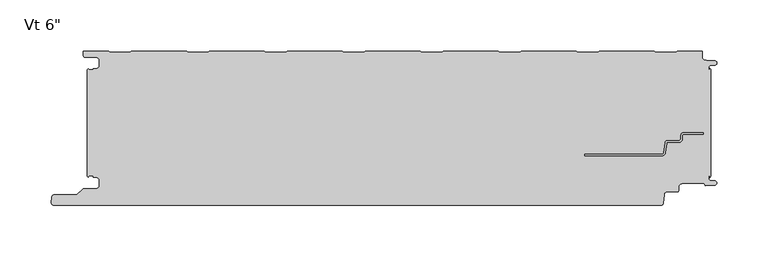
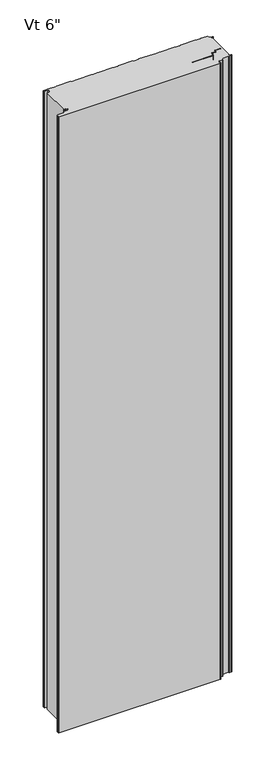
"""IFC4 building model written with IfcOpenShell, lengths in millimetres: plate geometry."""

from ifc_helpers import new_model, si_unit, frame, origin, place, context, project, spatial, polyline, circle_curve, source, transform, mapped, element, save
from ifc_brep_helpers import plane_surface, cylinder_surface, revolved_surface, advanced_brep


def plate_8d461976(model_context):
    return source(origin(), model_context, "Body", "AdvancedBrep", [
        advanced_brep(
        [(278.4543181, -80.5008679, 0.0), (297.1995181, -80.5008679, 0.0), (297.1995181, -82.0248679, 0.0), (278.4543181, -82.0248679, 0.0), (276.9303181, -83.5488679, 0.0), (276.9303181, -86.6476679, 0.0), (273.4759181, -90.1020679, 0.0), (262.2633607, -90.1020679, 0.0), (261.5042604, -90.7976552, 0.0), (260.3094328, -100.3416507, 0.0), (257.2730313, -103.124, 0.0), (181.7057181, -103.1360323, 0.0), (181.7057181, -101.6, 0.0), (257.2730313, -101.6, 0.0), (258.7912321, -100.2088254, 0.0), (259.9860597, -90.6648299, 0.0), (262.2633607, -88.5780679, 0.0), (273.4759181, -88.5780679, 0.0), (275.4063181, -86.6476679, 0.0), (275.4063181, -83.5488679, 0.0), (278.4543181, -80.5008679, 2400.0), (275.4063181, -83.5488679, 2400.0), (275.4063181, -86.6476679, 2400.0), (273.4759181, -88.5780679, 2400.0), (262.2633607, -88.5780679, 2400.0), (259.9860597, -90.6648299, 2400.0), (258.7912321, -100.2088254, 2400.0), (257.2730313, -101.6, 2400.0), (181.7057181, -101.6, 2400.0), (181.7057181, -103.1360323, 2400.0), (257.2730313, -103.1360323, 2400.0), (260.3094328, -100.3416507, 2400.0), (261.5042604, -90.7976552, 2400.0), (262.2633607, -90.1020679, 2400.0), (273.4759181, -90.1020679, 2400.0), (276.9303181, -86.6476679, 2400.0), (276.9303181, -83.5488679, 2400.0), (278.4543181, -82.0248679, 2400.0), (297.1995181, -82.0248679, 2400.0), (297.1995181, -80.5008679, 2400.0)],
        [
            (0, 1),
            (1, 2),
            (2, 3),
            (3, 4, circle_curve(frame((278.4543181, -83.5488679, 0.0), z_axis=(0.0, 0.0, 1.0), x_axis=(0.0, 1.0, 0.0)), 1.524)),
            (4, 5),
            (5, 6, circle_curve(frame((273.4759181, -86.6476679, 0.0), z_axis=(0.0, 0.0, -1.0), x_axis=(0.0, 1.0, 0.0)), 3.4544)),
            (6, 7),
            (7, 8, circle_curve(frame((262.2633607, -90.8640679, 0.0), z_axis=(0.0, 0.0, 1.0), x_axis=(0.0, 1.0, 0.0)), 0.762)),
            (8, 9),
            (9, 10, circle_curve(frame((257.2730313, -100.076, 0.0), z_axis=(0.0, 0.0, -1.0), x_axis=(0.0, 1.0, 0.0)), 3.048)),
            (10, 11),
            (11, 12),
            (12, 13),
            (13, 14, circle_curve(frame((257.2730313, -100.076, 0.0), z_axis=(0.0, 0.0, 1.0), x_axis=(0.0, 1.0, 0.0)), 1.524)),
            (14, 15),
            (15, 16, circle_curve(frame((262.2633607, -90.8640679, 0.0), z_axis=(0.0, 0.0, -1.0), x_axis=(0.0, 1.0, 0.0)), 2.286)),
            (16, 17),
            (17, 18, circle_curve(frame((273.4759181, -86.6476679, 0.0), z_axis=(0.0, 0.0, 1.0), x_axis=(0.0, 1.0, 0.0)), 1.9304)),
            (18, 19),
            (19, 0, circle_curve(frame((278.4543181, -83.5488679, 0.0), z_axis=(0.0, 0.0, -1.0), x_axis=(0.0, 1.0, 0.0)), 3.048)),
            (20, 21, circle_curve(frame((278.4543181, -83.5488679, 2400.0), z_axis=(0.0, 0.0, 1.0), x_axis=(0.0, 1.0, 0.0)), 3.048)),
            (21, 22),
            (22, 23, circle_curve(frame((273.4759181, -86.6476679, 2400.0), z_axis=(0.0, 0.0, -1.0), x_axis=(0.0, 1.0, 0.0)), 1.9304)),
            (23, 24),
            (24, 25, circle_curve(frame((262.2633607, -90.8640679, 2400.0), z_axis=(0.0, 0.0, 1.0), x_axis=(0.0, 1.0, 0.0)), 2.286)),
            (25, 26),
            (26, 27, circle_curve(frame((257.2730313, -100.076, 2400.0), z_axis=(0.0, 0.0, -1.0), x_axis=(0.0, 1.0, 0.0)), 1.524)),
            (27, 28),
            (28, 29),
            (29, 30),
            (30, 31, circle_curve(frame((257.2730313, -100.076, 2400.0), z_axis=(0.0, 0.0, 1.0), x_axis=(0.0, 1.0, 0.0)), 3.048)),
            (31, 32),
            (32, 33, circle_curve(frame((262.2633607, -90.8640679, 2400.0), z_axis=(0.0, 0.0, -1.0), x_axis=(0.0, 1.0, 0.0)), 0.762)),
            (33, 34),
            (34, 35, circle_curve(frame((273.4759181, -86.6476679, 2400.0), z_axis=(0.0, 0.0, 1.0), x_axis=(0.0, 1.0, 0.0)), 3.4544)),
            (35, 36),
            (36, 37, circle_curve(frame((278.4543181, -83.5488679, 2400.0), z_axis=(0.0, 0.0, -1.0), x_axis=(0.0, 1.0, 0.0)), 1.524)),
            (37, 38),
            (38, 39),
            (39, 20),
            (2, 38),
            (37, 3),
            (15, 25),
            (24, 16),
            (7, 33),
            (32, 8),
            (5, 35),
            (34, 6),
            (1, 39),
            (36, 4),
            (9, 31),
            (30, 10),
            (13, 27),
            (26, 14),
            (0, 20),
            (12, 28),
            (29, 11),
            (23, 17),
            (18, 22),
            (21, 19),
        ],
        [
            plane_surface(frame((297.1995181, -101.6, 0.0), z_axis=(0.0, 0.0, -1.0), x_axis=(-1.0, 0.0, 0.0))),
            plane_surface(frame((297.1995181, -101.6, 2400.0), z_axis=(0.0, 0.0, 1.0), x_axis=(-1.0, 0.0, 0.0))),
            plane_surface(frame((278.4543181, -82.0248679, 0.0), z_axis=(0.0, -1.0, 0.0), x_axis=(0.0, 0.0, 1.0))),
            cylinder_surface(frame((262.2633607, -90.8640679, 0.0), z_axis=(0.0, 0.0, -1.0), x_axis=(0.0, 1.0, 0.0)), 2.286),
            revolved_surface(polyline([(262.2633607, -90.1020679, 2400.0), (262.2633607, -90.1020679, 0.0)]), (262.2633607, -90.8640679, 0.0), (0.0, 0.0, 1.0)),
            cylinder_surface(frame((273.4759181, -86.6476679, 0.0), z_axis=(0.0, 0.0, -1.0), x_axis=(0.0, 1.0, 0.0)), 3.4544),
            plane_surface(frame((297.1995181, -82.0248679, 0.0), z_axis=(1.0, 0.0, 0.0), x_axis=(0.0, 0.0, 1.0))),
            revolved_surface(polyline([(278.4543181, -82.0248679, 2400.0), (278.4543181, -82.0248679, 0.0)]), (278.4543181, -83.5488679, 0.0), (0.0, 0.0, 1.0)),
            cylinder_surface(frame((257.2730313, -100.076, 0.0), z_axis=(0.0, 0.0, -1.0), x_axis=(0.0, 1.0, 0.0)), 3.048),
            revolved_surface(polyline([(257.2730313, -98.55199999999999, 2400.0), (257.2730313, -98.55199999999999, 0.0)]), (257.2730313, -100.076, 0.0), (0.0, 0.0, 1.0)),
            plane_surface(frame((297.1995181, -80.5008679, 0.0), z_axis=(0.0, 1.0, 0.0), x_axis=(0.0, 0.0, 1.0))),
            plane_surface(frame((259.9860597, -90.6648299, 0.0), z_axis=(-0.992254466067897, 0.12422187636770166, 0.0), x_axis=(0.0, 0.0, 1.0))),
            plane_surface(frame((257.2730313, -101.6, 0.0), z_axis=(0.0, 1.0, 0.0), x_axis=(0.0, 0.0, 1.0))),
            plane_surface(frame((260.3094328, -100.3416507, 0.0), z_axis=(0.9922544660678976, -0.12422187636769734, 0.0), x_axis=(0.0, 0.0, 1.0))),
            plane_surface(frame((276.9303181, -86.6476679, 0.0), z_axis=(1.0, 0.0, 0.0), x_axis=(0.0, 0.0, 1.0))),
            plane_surface(frame((181.7057181, -103.1360323, 0.0), z_axis=(0.0, -1.0, 0.0), x_axis=(0.0, 0.0, 1.0))),
            plane_surface(frame((181.7057181, -101.6, 0.0), z_axis=(-1.0, 0.0, 0.0), x_axis=(0.0, 0.0, 1.0))),
            plane_surface(frame((273.4759181, -88.5780679, 0.0), z_axis=(0.0, 1.0, 0.0), x_axis=(0.0, 0.0, 1.0))),
            plane_surface(frame((275.4063181, -83.5488679, 0.0), z_axis=(-1.0, 0.0, 0.0), x_axis=(0.0, 0.0, 1.0))),
            plane_surface(frame((262.2633607, -90.1020679, 0.0), z_axis=(0.0, -1.0, 0.0), x_axis=(0.0, 0.0, 1.0))),
            revolved_surface(polyline([(273.4759181, -84.7172679, 2400.0), (273.4759181, -84.7172679, 0.0)]), (273.4759181, -86.6476679, 0.0), (0.0, 0.0, 1.0)),
            cylinder_surface(frame((278.4543181, -83.5488679, 0.0), z_axis=(0.0, 0.0, -1.0), x_axis=(0.0, 1.0, 0.0)), 3.048),
        ],
        [
            (0, [[1, 2, 3, 4, 5, 6, 7, 8, 9, 10, 11, 12, 13, 14, 15, 16, 17, 18, 19, 20]]),
            (1, [[21, 22, 23, 24, 25, 26, 27, 28, 29, 30, 31, 32, 33, 34, 35, 36, 37, 38, 39, 40]]),
            (2, [[41, -38, 42, -3]]),
            (3, [[43, -25, 44, -16]]),
            (4, [[45, -33, 46, -8]]),
            (5, [[47, -35, 48, -6]]),
            (6, [[49, -39, -41, -2]]),
            (7, [[-42, -37, 50, -4]]),
            (8, [[51, -31, 52, -10]]),
            (9, [[53, -27, 54, -14]]),
            (10, [[55, -40, -49, -1]]),
            (11, [[-54, -26, -43, -15]]),
            (12, [[56, -28, -53, -13]]),
            (13, [[-46, -32, -51, -9]]),
            (14, [[-50, -36, -47, -5]]),
            (15, [[-52, -30, 57, -11]]),
            (16, [[-57, -29, -56, -12]]),
            (17, [[-44, -24, 58, -17]]),
            (18, [[59, -22, 60, -19]]),
            (19, [[-48, -34, -45, -7]]),
            (20, [[-58, -23, -59, -18]]),
            (21, [[-60, -21, -55, -20]]),
        ],
    ),
        advanced_brep(
        [(-303.7683001, -124.070875, 2400.0), (-302.5671761, -122.9014003, 2400.0), (-298.8087827, -122.9014003, 2400.0), (-298.8087827, -124.2998791, 2400.0), (-296.1096717, -124.2998791, 2400.0), (-292.7596764, -127.6498744, 2400.0), (-292.7596764, -132.0498656, 2400.0), (-296.1096717, -135.3998609, 2400.0), (-307.9205608, -135.3998609, 2400.0), (-309.1226385, -135.8977778, 2400.0), (-314.6247096, -141.3998489, 2400.0), (-336.7198392, -141.3998489, 2400.0), (-339.3765709, -143.6184509, 2400.0), (-339.8125699, -148.6002718, 2400.0), (-337.2521176, -151.3945967, 2400.0), (256.315622, -151.4, 2400.0), (258.2669057, -149.6149259, 2400.0), (259.021161, -141.1539491, 2400.0), (262.1653654, -138.3906462, 2400.0), (272.2583308, -138.3906462, 2400.0), (273.2097394, -137.4392375, 2400.0), (273.2097394, -134.2955822, 2400.0), (277.2091924, -130.2961292, 2400.0), (298.3895515, -130.2961292, 2400.0), (299.5334028, -132.276977, 2400.0), (308.506811, -131.9217167, 2400.0), (308.5037148, -127.7211391, 2400.0), (304.4977997, -127.4767242, 2400.0), (302.7686884, -125.6819116, 2400.0), (302.7686884, -122.897365, 2400.0), (303.7686884, -122.897365, 2400.0), (303.7686884, -124.484865, 2400.0), (304.8, -123.4535534, 2400.0), (304.8, -18.6184525, 2400.0), (303.7686884, -17.5871409, 2400.0), (303.7686884, -19.0015288, 2400.0), (302.7686884, -19.0015288, 2400.0), (302.7686884, -16.6743462, 2400.0), (304.4513685, -14.9256429, 2400.0), (308.5921924, -14.7059822, 2400.0), (308.5931719, -10.4046442, 2400.0), (300.1016499, -9.9974365, 2400.0), (296.2787013, -6.0026007, 2400.0), (296.2787013, -1.0, 2400.0), (271.7794011, -1.0, 2400.0), (270.3937682, -2.2002307, 2400.0), (251.0186019, -2.2002307, 2400.0), (249.6329689, -1.0, 2400.0), (195.5795535, -1.0, 2400.0), (194.1939206, -2.2002307, 2400.0), (174.8187543, -2.2002307, 2400.0), (173.4331213, -1.0, 2400.0), (119.3797059, -1.0, 2400.0), (117.994073, -2.2002307, 2400.0), (98.6189067, -2.2002307, 2400.0), (97.2332737, -1.0, 2400.0), (43.1798583, -1.0, 2400.0), (41.7942254, -2.2002307, 2400.0), (22.4190591, -2.2002307, 2400.0), (21.0334261, -1.0, 2400.0), (-33.0199893, -1.0, 2400.0), (-34.4056222, -2.2002307, 2400.0), (-53.7807885, -2.2002307, 2400.0), (-55.1664215, -1.0, 2400.0), (-109.2198369, -1.0, 2400.0), (-110.6054698, -2.2002307, 2400.0), (-129.9806361, -2.2002307, 2400.0), (-131.3662691, -1.0, 2400.0), (-185.4196845, -1.0, 2400.0), (-186.8053174, -2.2002307, 2400.0), (-206.1804837, -2.2002307, 2400.0), (-207.5661167, -1.0, 2400.0), (-261.6195321, -1.0, 2400.0), (-263.005165, -2.2002307, 2400.0), (-282.3803313, -2.2002307, 2400.0), (-283.765974, -0.9999916, 2400.0), (-308.2662506, -0.9999916, 2400.0), (-308.2662506, -5.2315389, 2400.0), (-306.4962564, -7.0015331, 2400.0), (-296.0762778, -7.0015331, 2400.0), (-292.776282, -10.301529, 2400.0), (-292.776282, -14.7015202, 2400.0), (-296.0762777, -18.0015159, 2400.0), (-298.7684875, -18.0015159, 2400.0), (-298.7684875, -19.0015105, 2400.0), (-302.7686911, -19.0015105, 2400.0), (-303.7686883, -18.0015192, 2400.0), (-304.8, -19.0328308, 2400.0), (-304.8, -123.0391751, 2400.0), (-303.7683001, -124.070875, 0.0), (-304.8, -123.0391751, 0.0), (-304.8, -19.0328308, 0.0), (-303.7686883, -18.0015192, 0.0), (-302.7686911, -19.0015105, 0.0), (-298.7684875, -19.0015105, 0.0), (-298.7684875, -18.0015159, 0.0), (-296.0762777, -18.0015159, 0.0), (-292.776282, -14.7015202, 0.0), (-292.776282, -10.301529, 0.0), (-296.0762778, -7.0015331, 0.0), (-306.4962564, -7.0015331, 0.0), (-308.2662506, -5.2315389, 0.0), (-308.2662506, -0.9999916, 0.0), (-283.765974, -0.9999916, 0.0), (-282.3803313, -2.2002307, 0.0), (-263.005165, -2.2002307, 0.0), (-261.6195321, -1.0, 0.0), (-207.5661167, -1.0, 0.0), (-206.1804837, -2.2002307, 0.0), (-186.8053174, -2.2002307, 0.0), (-185.4196845, -1.0, 0.0), (-131.3662691, -1.0, 0.0), (-129.9806361, -2.2002307, 0.0), (-110.6054698, -2.2002307, 0.0), (-109.2198369, -1.0, 0.0), (-55.1664215, -1.0, 0.0), (-53.7807885, -2.2002307, 0.0), (-34.4056222, -2.2002307, 0.0), (-33.0199893, -1.0, 0.0), (21.0334261, -1.0, 0.0), (22.4190591, -2.2002307, 0.0), (41.7942254, -2.2002307, 0.0), (43.1798583, -1.0, 0.0), (97.2332737, -1.0, 0.0), (98.6189067, -2.2002307, 0.0), (117.994073, -2.2002307, 0.0), (119.3797059, -1.0, 0.0), (173.4331213, -1.0, 0.0), (174.8187543, -2.2002307, 0.0), (194.1939206, -2.2002307, 0.0), (195.5795535, -1.0, 0.0), (249.6329689, -1.0, 0.0), (251.0186019, -2.2002307, 0.0), (270.3937682, -2.2002307, 0.0), (271.7794011, -1.0, 0.0), (296.2787013, -1.0, 0.0), (296.2787013, -6.0026007, 0.0), (300.1016499, -9.9974365, 0.0), (308.5931719, -10.4046442, 0.0), (308.5921924, -14.7059822, 0.0), (304.4513685, -14.9256429, 0.0), (302.7686884, -16.6743462, 0.0), (302.7686884, -19.0015288, 0.0), (303.7686884, -19.0015288, 0.0), (303.7686884, -17.5871409, 0.0), (304.8, -18.6184525, 0.0), (304.8, -123.4535534, 0.0), (303.7686884, -124.484865, 0.0), (303.7686884, -122.897365, 0.0), (302.7686884, -122.897365, 0.0), (302.7686884, -125.6819116, 0.0), (304.4977997, -127.4767242, 0.0), (308.5037148, -127.7211391, 0.0), (308.506811, -131.9217167, 0.0), (299.5334028, -132.276977, 0.0), (298.3895515, -130.2961292, 0.0), (277.2091924, -130.2961292, 0.0), (273.2097394, -134.2955822, 0.0), (273.2097394, -137.4392375, 0.0), (272.2583308, -138.3906462, 0.0), (262.1653654, -138.3906462, 0.0), (259.021161, -141.1539491, 0.0), (258.2669057, -149.6149259, 0.0), (256.315622, -151.4, 0.0), (-337.2521176, -151.4, 0.0), (-339.8125699, -148.6002718, 0.0), (-339.3765709, -143.6184509, 0.0), (-336.7198392, -141.3998489, 0.0), (-314.6247096, -141.3998489, 0.0), (-309.1226385, -135.8977778, 0.0), (-307.9205608, -135.3998609, 0.0), (-296.1096717, -135.3998609, 0.0), (-292.7596764, -132.0498656, 0.0), (-292.7596764, -127.6498744, 0.0), (-296.1096717, -124.2998791, 0.0), (-298.8087827, -124.2998791, 0.0), (-298.8087827, -122.9014003, 0.0), (-302.5671761, -122.9014003, 0.0)],
        [
            (0, 1, circle_curve(frame((-302.5686908, -124.1013969, 2400.0), z_axis=(0.0, 0.0, -1.0), x_axis=(-1.0, 0.0, 0.0)), 1.1999976)),
            (1, 2),
            (2, 3),
            (3, 4),
            (4, 5, circle_curve(frame((-296.1096717, -127.6498744, 2400.0), z_axis=(0.0, 0.0, -1.0), x_axis=(-1.0, 0.0, 0.0)), 3.3499953)),
            (5, 6),
            (6, 7, circle_curve(frame((-296.1096717, -132.0498656, 2400.0), z_axis=(0.0, 0.0, -1.0), x_axis=(-1.0, 0.0, 0.0)), 3.3499953)),
            (7, 8),
            (8, 9, circle_curve(frame((-307.9205608, -137.0998555, 2400.0), z_axis=(0.0, 0.0, 1.0), x_axis=(-1.0, 0.0, 0.0)), 1.6999946)),
            (9, 10),
            (10, 11),
            (11, 12, circle_curve(frame((-336.7198392, -144.0998415, 2400.0), z_axis=(0.0, 0.0, 1.0), x_axis=(-1.0, 0.0, 0.0)), 2.6999926)),
            (12, 13),
            (13, 14, circle_curve(frame((-337.2521176, -148.8243575, 2400.0), z_axis=(0.0, 0.0, 1.0), x_axis=(-1.0, 0.0, 0.0)), 2.5702393)),
            (14, 15),
            (15, 16, circle_curve(frame((256.315622, -149.4409784, 2400.0), z_axis=(0.0, 0.0, 1.0), x_axis=(-1.0, 0.0, 0.0)), 1.9590216)),
            (16, 17),
            (17, 18, circle_curve(frame((262.0396267, -141.4180321, 2400.0), z_axis=(0.0, 0.0, -1.0), x_axis=(-1.0, 0.0, 0.0)), 3.0299959)),
            (18, 19),
            (19, 20, circle_curve(frame((272.2583308, -137.4392375, 2400.0), z_axis=(0.0, 0.0, 1.0), x_axis=(-1.0, 0.0, 0.0)), 0.9514087)),
            (20, 21),
            (21, 22, circle_curve(frame((277.2091924, -134.2955822, 2400.0), z_axis=(0.0, 0.0, -1.0), x_axis=(-1.0, 0.0, 0.0)), 3.9994529)),
            (22, 23),
            (23, 24),
            (24, 25),
            (25, 26, circle_curve(frame((308.4236622, -129.821488, 2400.0), z_axis=(0.0, 0.0, 1.0), x_axis=(-1.0, 0.0, 0.0)), 2.1018739)),
            (26, 27),
            (27, 28, circle_curve(frame((304.6099653, -125.6383506, 2400.0), z_axis=(0.0, 0.0, -1.0), x_axis=(-1.0, 0.0, 0.0)), 1.8417922)),
            (28, 29),
            (29, 30),
            (30, 31),
            (31, 32),
            (32, 33),
            (33, 34),
            (34, 35),
            (35, 36),
            (36, 37),
            (37, 38, circle_curve(frame((304.5186869, -16.6743462, 2400.0), z_axis=(0.0, 0.0, -1.0), x_axis=(1.0, 0.0, 0.0)), 1.7499985)),
            (38, 39),
            (39, 40, circle_curve(frame((308.4781032, -12.5552871, 2400.0), z_axis=(0.0, 0.0, 1.0), x_axis=(1.0, 0.0, 0.0)), 2.153719)),
            (40, 41),
            (41, 42, circle_curve(frame((300.2939817, -5.9867338, 2400.0), z_axis=(0.0, 0.0, -1.0), x_axis=(1.0, 0.0, 0.0)), 4.0153117)),
            (42, 43),
            (43, 44),
            (44, 45),
            (45, 46),
            (46, 47),
            (47, 48),
            (48, 49),
            (49, 50),
            (50, 51),
            (51, 52),
            (52, 53),
            (53, 54),
            (54, 55),
            (55, 56),
            (56, 57),
            (57, 58),
            (58, 59),
            (59, 60),
            (60, 61),
            (61, 62),
            (62, 63),
            (63, 64),
            (64, 65),
            (65, 66),
            (66, 67),
            (67, 68),
            (68, 69),
            (69, 70),
            (70, 71),
            (71, 72),
            (72, 73),
            (73, 74),
            (74, 75),
            (75, 76),
            (76, 77),
            (77, 78, circle_curve(frame((-306.4962564, -5.2315389, 2400.0), z_axis=(0.0, 0.0, 1.0), x_axis=(1.0, 0.0, 0.0)), 1.7699942)),
            (78, 79),
            (79, 80, circle_curve(frame((-296.0762778, -10.301529, 2400.0), z_axis=(0.0, 0.0, -1.0), x_axis=(1.0, 0.0, 0.0)), 3.2999959)),
            (80, 81),
            (81, 82, circle_curve(frame((-296.0762777, -14.7015202, 2400.0), z_axis=(0.0, 0.0, -1.0), x_axis=(1.0, 0.0, 0.0)), 3.2999957)),
            (82, 83),
            (83, 84),
            (84, 85),
            (85, 86, circle_curve(frame((-302.7686911, -18.0015133, 2400.0), z_axis=(0.0, 0.0, -1.0), x_axis=(1.0, 0.0, 0.0)), 0.9999972)),
            (86, 87),
            (87, 88),
            (88, 0),
            (89, 90),
            (90, 91),
            (91, 92),
            (92, 93, circle_curve(frame((-302.7686911, -18.0015133, 0.0), z_axis=(0.0, 0.0, 1.0), x_axis=(1.0, 0.0, 0.0)), 0.9999972)),
            (93, 94),
            (94, 95),
            (95, 96),
            (96, 97, circle_curve(frame((-296.0762777, -14.7015202, 0.0), z_axis=(0.0, 0.0, 1.0), x_axis=(1.0, 0.0, 0.0)), 3.2999957)),
            (97, 98),
            (98, 99, circle_curve(frame((-296.0762778, -10.301529, 0.0), z_axis=(0.0, 0.0, 1.0), x_axis=(1.0, 0.0, 0.0)), 3.2999959)),
            (99, 100),
            (100, 101, circle_curve(frame((-306.4962564, -5.2315389, 0.0), z_axis=(0.0, 0.0, -1.0), x_axis=(1.0, 0.0, 0.0)), 1.7699942)),
            (101, 102),
            (102, 103),
            (103, 104),
            (104, 105),
            (105, 106),
            (106, 107),
            (107, 108),
            (108, 109),
            (109, 110),
            (110, 111),
            (111, 112),
            (112, 113),
            (113, 114),
            (114, 115),
            (115, 116),
            (116, 117),
            (117, 118),
            (118, 119),
            (119, 120),
            (120, 121),
            (121, 122),
            (122, 123),
            (123, 124),
            (124, 125),
            (125, 126),
            (126, 127),
            (127, 128),
            (128, 129),
            (129, 130),
            (130, 131),
            (131, 132),
            (132, 133),
            (133, 134),
            (134, 135),
            (135, 136),
            (136, 137, circle_curve(frame((300.2939817, -5.9867338, 0.0), z_axis=(0.0, 0.0, 1.0), x_axis=(1.0, 0.0, 0.0)), 4.0153117)),
            (137, 138),
            (138, 139, circle_curve(frame((308.4781032, -12.5552871, 0.0), z_axis=(0.0, 0.0, -1.0), x_axis=(1.0, 0.0, 0.0)), 2.153719)),
            (139, 140),
            (140, 141, circle_curve(frame((304.5186869, -16.6743462, 0.0), z_axis=(0.0, 0.0, 1.0), x_axis=(1.0, 0.0, 0.0)), 1.7499985)),
            (141, 142),
            (142, 143),
            (143, 144),
            (144, 145),
            (145, 146),
            (146, 147),
            (147, 148),
            (148, 149),
            (149, 150),
            (150, 151, circle_curve(frame((304.6099653, -125.6383506, 0.0), z_axis=(0.0, 0.0, 1.0), x_axis=(-1.0, 0.0, 0.0)), 1.8417922)),
            (151, 152),
            (152, 153, circle_curve(frame((308.4236622, -129.821488, 0.0), z_axis=(0.0, 0.0, -1.0), x_axis=(-1.0, 0.0, 0.0)), 2.1018739)),
            (153, 154),
            (154, 155),
            (155, 156),
            (156, 157, circle_curve(frame((277.2091924, -134.2955822, 0.0), z_axis=(0.0, 0.0, 1.0), x_axis=(-1.0, 0.0, 0.0)), 3.9994529)),
            (157, 158),
            (158, 159, circle_curve(frame((272.2583308, -137.4392375, 0.0), z_axis=(0.0, 0.0, -1.0), x_axis=(-1.0, 0.0, 0.0)), 0.9514087)),
            (159, 160),
            (160, 161, circle_curve(frame((262.0396267, -141.4180321, 0.0), z_axis=(0.0, 0.0, 1.0), x_axis=(-1.0, 0.0, 0.0)), 3.0299959)),
            (161, 162),
            (162, 163, circle_curve(frame((256.315622, -149.4409784, 0.0), z_axis=(0.0, 0.0, -1.0), x_axis=(-1.0, 0.0, 0.0)), 1.9590216)),
            (163, 164),
            (164, 165, circle_curve(frame((-337.2521176, -148.8243575, 0.0), z_axis=(0.0, 0.0, -1.0), x_axis=(-1.0, 0.0, 0.0)), 2.5702393)),
            (165, 166),
            (166, 167, circle_curve(frame((-336.7198392, -144.0998415, 0.0), z_axis=(0.0, 0.0, -1.0), x_axis=(-1.0, 0.0, 0.0)), 2.6999926)),
            (167, 168),
            (168, 169),
            (169, 170, circle_curve(frame((-307.9205608, -137.0998555, 0.0), z_axis=(0.0, 0.0, -1.0), x_axis=(-1.0, 0.0, 0.0)), 1.6999946)),
            (170, 171),
            (171, 172, circle_curve(frame((-296.1096717, -132.0498656, 0.0), z_axis=(0.0, 0.0, 1.0), x_axis=(-1.0, 0.0, 0.0)), 3.3499953)),
            (172, 173),
            (173, 174, circle_curve(frame((-296.1096717, -127.6498744, 0.0), z_axis=(0.0, 0.0, 1.0), x_axis=(-1.0, 0.0, 0.0)), 3.3499953)),
            (174, 175),
            (175, 176),
            (176, 177),
            (177, 89, circle_curve(frame((-302.5686908, -124.1013969, 0.0), z_axis=(0.0, 0.0, 1.0), x_axis=(-1.0, 0.0, 0.0)), 1.1999976)),
            (88, 90),
            (89, 0),
            (87, 91),
            (32, 146),
            (145, 33),
            (31, 147),
            (30, 148),
            (29, 149),
            (28, 150),
            (27, 151),
            (26, 152),
            (25, 153),
            (24, 154),
            (23, 155),
            (22, 156),
            (21, 157),
            (20, 158),
            (19, 159),
            (18, 160),
            (17, 161),
            (16, 162),
            (15, 163),
            (14, 164),
            (13, 165),
            (12, 166),
            (11, 167),
            (10, 168),
            (9, 169),
            (8, 170),
            (7, 171),
            (6, 172),
            (5, 173),
            (4, 174),
            (3, 175),
            (2, 176),
            (1, 177),
            (86, 92),
            (85, 93),
            (84, 94),
            (83, 95),
            (82, 96),
            (81, 97),
            (80, 98),
            (79, 99),
            (78, 100),
            (77, 101),
            (76, 102),
            (41, 137),
            (136, 42),
            (40, 138),
            (39, 139),
            (38, 140),
            (37, 141),
            (36, 142),
            (35, 143),
            (34, 144),
            (74, 104),
            (103, 75),
            (73, 105),
            (72, 106),
            (71, 107),
            (70, 108),
            (69, 109),
            (68, 110),
            (67, 111),
            (66, 112),
            (65, 113),
            (64, 114),
            (63, 115),
            (62, 116),
            (61, 117),
            (60, 118),
            (59, 119),
            (58, 120),
            (57, 121),
            (56, 122),
            (55, 123),
            (54, 124),
            (53, 125),
            (52, 126),
            (51, 127),
            (50, 128),
            (49, 129),
            (48, 130),
            (47, 131),
            (46, 132),
            (45, 133),
            (44, 134),
            (43, 135),
        ],
        [
            plane_surface(frame((0.0, -151.4, 2400.0), z_axis=(0.0, 0.0, 1.0), x_axis=(0.0, -1.0, 0.0))),
            plane_surface(frame((0.0, -151.4, 0.0), z_axis=(0.0, 0.0, -1.0), x_axis=(0.0, -1.0, 0.0))),
            plane_surface(frame((-303.7683001, -124.070875, 2400.0), z_axis=(-0.7071067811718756, -0.7071067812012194, 0.0), x_axis=(0.0, 0.0, -1.0))),
            plane_surface(frame((-304.8, -123.0391751, 2400.0), z_axis=(-1.0, 0.0, 0.0), x_axis=(0.0, 0.0, -1.0))),
            plane_surface(frame((304.8, -122.0391751, 2400.0), z_axis=(1.0, 0.0, 0.0), x_axis=(0.0, 0.0, -1.0))),
            plane_surface(frame((304.8, -123.4535534, 2400.0), z_axis=(0.7071067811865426, -0.7071067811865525, 0.0), x_axis=(0.0, 0.0, -1.0))),
            plane_surface(frame((303.7686884, -124.484865, 2400.0), z_axis=(-1.0, 0.0, 0.0), x_axis=(0.0, 0.0, -1.0))),
            plane_surface(frame((303.7686884, -122.897365, 2400.0), z_axis=(0.0, -1.0, 0.0), x_axis=(0.0, 0.0, -1.0))),
            plane_surface(frame((302.7686884, -122.897365, 2400.0), z_axis=(1.0, 0.0, 0.0), x_axis=(0.0, 0.0, -1.0))),
            revolved_surface(polyline([(302.7681731, -125.6383506, 0.0), (302.7681731, -125.6383506, 2400.0)]), (304.6099653, -125.6383506, 2400.0), (0.0, 0.0, -1.0)),
            plane_surface(frame((304.4977997, -127.4767242, 2400.0), z_axis=(0.06090025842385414, 0.9981438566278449, 0.0), x_axis=(0.0, 0.0, -1.0))),
            cylinder_surface(frame((308.4236622, -129.821488, 2400.0), z_axis=(0.0, 0.0, 1.0), x_axis=(-1.0, 0.0, 0.0)), 2.1018739),
            plane_surface(frame((308.506811, -131.9217167, 2400.0), z_axis=(0.03955935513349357, -0.9992172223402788, 0.0), x_axis=(0.0, 0.0, -1.0))),
            plane_surface(frame((299.5334028, -132.276977, 2400.0), z_axis=(-0.8659859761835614, -0.5000682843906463, 0.0), x_axis=(0.0, 0.0, -1.0))),
            plane_surface(frame((298.3895515, -130.2961292, 2400.0), z_axis=(0.0, -1.0, 0.0), x_axis=(0.0, 0.0, -1.0))),
            revolved_surface(polyline([(273.2097395, -134.2955822, 0.0), (273.2097395, -134.2955822, 2400.0)]), (277.2091924, -134.2955822, 2400.0), (0.0, 0.0, -1.0)),
            plane_surface(frame((273.2097394, -134.2955822, 2400.0), z_axis=(1.0, 0.0, 0.0), x_axis=(0.0, 0.0, -1.0))),
            cylinder_surface(frame((272.2583308, -137.4392375, 2400.0), z_axis=(0.0, 0.0, 1.0), x_axis=(-1.0, 0.0, 0.0)), 0.9514087),
            plane_surface(frame((272.2583308, -138.3906462, 2400.0), z_axis=(0.0, -1.0, 0.0), x_axis=(0.0, 0.0, -1.0))),
            revolved_surface(polyline([(259.00963079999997, -141.4180321, 0.0), (259.00963079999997, -141.4180321, 2400.0)]), (262.0396267, -141.4180321, 2400.0), (0.0, 0.0, -1.0)),
            plane_surface(frame((259.021161, -141.1539491, 2400.0), z_axis=(0.9960500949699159, -0.08879306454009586, 0.0), x_axis=(0.0, 0.0, -1.0))),
            cylinder_surface(frame((256.315622, -149.4409784, 2400.0), z_axis=(0.0, 0.0, 1.0), x_axis=(-1.0, 0.0, 0.0)), 1.9590216),
            plane_surface(frame((256.315622, -151.4, 2400.0), z_axis=(0.0, -1.0, 0.0), x_axis=(0.0, 0.0, -1.0))),
            cylinder_surface(frame((-337.2521176, -148.8243575, 2400.0), z_axis=(0.0, 0.0, 1.0), x_axis=(-1.0, 0.0, 0.0)), 2.5702393),
            plane_surface(frame((-339.8125699, -148.6002718, 2400.0), z_axis=(-0.9961921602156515, 0.08718474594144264, 0.0), x_axis=(0.0, 0.0, -1.0))),
            cylinder_surface(frame((-336.7198392, -144.0998415, 2400.0), z_axis=(0.0, 0.0, 1.0), x_axis=(-1.0, 0.0, 0.0)), 2.6999926),
            plane_surface(frame((-336.7198392, -141.3998489, 2400.0), z_axis=(0.0, 1.0, 0.0), x_axis=(0.0, 0.0, -1.0))),
            plane_surface(frame((-314.6247096, -141.3998489, 2400.0), z_axis=(-0.7071067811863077, 0.7071067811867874, 0.0), x_axis=(0.0, 0.0, -1.0))),
            cylinder_surface(frame((-307.9205608, -137.0998555, 2400.0), z_axis=(0.0, 0.0, 1.0), x_axis=(-1.0, 0.0, 0.0)), 1.6999946),
            plane_surface(frame((-307.9205608, -135.3998609, 2400.0), z_axis=(0.0, 1.0, 0.0), x_axis=(0.0, 0.0, -1.0))),
            revolved_surface(polyline([(-299.45966699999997, -132.0498656, 0.0), (-299.45966699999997, -132.0498656, 2400.0)]), (-296.1096717, -132.0498656, 2400.0), (0.0, 0.0, -1.0)),
            plane_surface(frame((-292.7596764, -132.0498656, 2400.0), z_axis=(-1.0, 0.0, 0.0), x_axis=(0.0, 0.0, -1.0))),
            revolved_surface(polyline([(-299.45966699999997, -127.6498744, 0.0), (-299.45966699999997, -127.6498744, 2400.0)]), (-296.1096717, -127.6498744, 2400.0), (0.0, 0.0, -1.0)),
            plane_surface(frame((-296.1096717, -124.2998791, 2400.0), z_axis=(0.0, -1.0, 0.0), x_axis=(0.0, 0.0, -1.0))),
            plane_surface(frame((-298.8087827, -124.2998791, 2400.0), z_axis=(-1.0, 0.0, 0.0), x_axis=(0.0, 0.0, -1.0))),
            plane_surface(frame((-298.8087827, -122.9014003, 2400.0), z_axis=(0.0, -1.0, 0.0), x_axis=(0.0, 0.0, -1.0))),
            revolved_surface(polyline([(-303.76868840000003, -124.1013969, 0.0), (-303.76868840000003, -124.1013969, 2400.0)]), (-302.5686908, -124.1013969, 2400.0), (0.0, 0.0, -1.0)),
            plane_surface(frame((-304.8, -19.0328308, 2400.0), z_axis=(-0.7071067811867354, 0.7071067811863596, 0.0), x_axis=(0.0, 0.0, -1.0))),
            revolved_surface(polyline([(-301.7686939, -18.0015133, 0.0), (-301.7686939, -18.0015133, 2400.0)]), (-302.7686911, -18.0015133, 2400.0), (0.0, 0.0, -1.0)),
            plane_surface(frame((-302.7686911, -19.0015105, 2400.0), z_axis=(0.0, 1.0, 0.0), x_axis=(0.0, 0.0, -1.0))),
            plane_surface(frame((-298.7684875, -19.0015105, 2400.0), z_axis=(-1.0, 0.0, 0.0), x_axis=(0.0, 0.0, -1.0))),
            plane_surface(frame((-298.7684875, -18.0015159, 2400.0), z_axis=(0.0, 1.0, 0.0), x_axis=(0.0, 0.0, -1.0))),
            revolved_surface(polyline([(-292.776282, -14.7015202, 0.0), (-292.776282, -14.7015202, 2400.0)]), (-296.0762777, -14.7015202, 2400.0), (0.0, 0.0, -1.0)),
            plane_surface(frame((-292.776282, -14.7015202, 2400.0), z_axis=(-1.0, 0.0, 0.0), x_axis=(0.0, 0.0, -1.0))),
            revolved_surface(polyline([(-292.7762819, -10.301529, 0.0), (-292.7762819, -10.301529, 2400.0)]), (-296.0762778, -10.301529, 2400.0), (0.0, 0.0, -1.0)),
            plane_surface(frame((-296.0762778, -7.0015331, 2400.0), z_axis=(0.0, -1.0, 0.0), x_axis=(0.0, 0.0, -1.0))),
            cylinder_surface(frame((-306.4962564, -5.2315389, 2400.0), z_axis=(0.0, 0.0, 1.0), x_axis=(1.0, 0.0, 0.0)), 1.7699942),
            plane_surface(frame((-308.2662506, -5.2315389, 2400.0), z_axis=(-1.0, 0.0, 0.0), x_axis=(0.0, 0.0, -1.0))),
            revolved_surface(polyline([(304.3092934, -5.9867338, 0.0), (304.3092934, -5.9867338, 2400.0)]), (300.2939817, -5.9867338, 2400.0), (0.0, 0.0, -1.0)),
            plane_surface(frame((300.1016499, -9.9974365, 2400.0), z_axis=(0.047899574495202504, 0.9988521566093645, 0.0), x_axis=(0.0, 0.0, -1.0))),
            cylinder_surface(frame((308.4781032, -12.5552871, 2400.0), z_axis=(0.0, 0.0, 1.0), x_axis=(1.0, 0.0, 0.0)), 2.153719),
            plane_surface(frame((308.5921924, -14.7059822, 2400.0), z_axis=(0.05297310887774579, -0.9985959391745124, 0.0), x_axis=(0.0, 0.0, -1.0))),
            revolved_surface(polyline([(306.2686854, -16.6743462, 0.0), (306.2686854, -16.6743462, 2400.0)]), (304.5186869, -16.6743462, 2400.0), (0.0, 0.0, -1.0)),
            plane_surface(frame((302.7686884, -16.6743462, 2400.0), z_axis=(1.0, 0.0, 0.0), x_axis=(0.0, 0.0, -1.0))),
            plane_surface(frame((302.7686884, -19.0015288, 2400.0), z_axis=(0.0, 1.0, 0.0), x_axis=(0.0, 0.0, -1.0))),
            plane_surface(frame((303.7686884, -19.0015288, 2400.0), z_axis=(-1.0, 0.0, 0.0), x_axis=(0.0, 0.0, -1.0))),
            plane_surface(frame((303.7686884, -17.5871409, 2400.0), z_axis=(0.7071067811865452, 0.7071067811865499, 0.0), x_axis=(0.0, 0.0, -1.0))),
            plane_surface(frame((-283.765974, -0.9999916, 2400.0), z_axis=(0.6547276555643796, 0.7558648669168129, 0.0), x_axis=(0.0, 0.0, -1.0))),
            plane_surface(frame((-308.2662506, -0.9999916, 2400.0), z_axis=(0.0, 1.0, 0.0), x_axis=(0.0, 0.0, -1.0))),
            plane_surface(frame((-282.3803313, -2.2002307, 2400.0), z_axis=(0.0, 1.0, 0.0), x_axis=(0.0, 0.0, -1.0))),
            plane_surface(frame((-263.005165, -2.2002307, 2400.0), z_axis=(-0.6547276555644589, 0.7558648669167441, 0.0), x_axis=(0.0, 0.0, -1.0))),
            plane_surface(frame((-261.6195321, -1.0, 2400.0), z_axis=(0.0, 1.0, 0.0), x_axis=(0.0, 0.0, -1.0))),
            plane_surface(frame((-207.5661167, -1.0, 2400.0), z_axis=(0.6547276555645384, 0.7558648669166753, 0.0), x_axis=(0.0, 0.0, -1.0))),
            plane_surface(frame((-206.1804837, -2.2002307, 2400.0), z_axis=(0.0, 1.0, 0.0), x_axis=(0.0, 0.0, -1.0))),
            plane_surface(frame((-186.8053174, -2.2002307, 2400.0), z_axis=(-0.6547276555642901, 0.7558648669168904, 0.0), x_axis=(0.0, 0.0, -1.0))),
            plane_surface(frame((-185.4196845, -1.0, 2400.0), z_axis=(0.0, 1.0, 0.0), x_axis=(0.0, 0.0, -1.0))),
            plane_surface(frame((-131.3662691, -1.0, 2400.0), z_axis=(0.6547276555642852, 0.7558648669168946, 0.0), x_axis=(0.0, 0.0, -1.0))),
            plane_surface(frame((-129.9806361, -2.2002307, 2400.0), z_axis=(0.0, 1.0, 0.0), x_axis=(0.0, 0.0, -1.0))),
            plane_surface(frame((-110.6054698, -2.2002307, 2400.0), z_axis=(-0.6547276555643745, 0.7558648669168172, 0.0), x_axis=(0.0, 0.0, -1.0))),
            plane_surface(frame((-109.2198369, -1.0, 2400.0), z_axis=(0.0, 1.0, 0.0), x_axis=(0.0, 0.0, -1.0))),
            plane_surface(frame((-55.1664215, -1.0, 2400.0), z_axis=(0.6547276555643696, 0.7558648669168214, 0.0), x_axis=(0.0, 0.0, -1.0))),
            plane_surface(frame((-53.7807885, -2.2002307, 2400.0), z_axis=(0.0, 1.0, 0.0), x_axis=(0.0, 0.0, -1.0))),
            plane_surface(frame((-34.4056222, -2.2002307, 2400.0), z_axis=(-0.6547276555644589, 0.7558648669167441, 0.0), x_axis=(0.0, 0.0, -1.0))),
            plane_surface(frame((-33.0199893, -1.0, 2400.0), z_axis=(0.0, 1.0, 0.0), x_axis=(0.0, 0.0, -1.0))),
            plane_surface(frame((21.0334261, -1.0, 2400.0), z_axis=(0.654727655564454, 0.7558648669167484, 0.0), x_axis=(0.0, 0.0, -1.0))),
            plane_surface(frame((22.4190591, -2.2002307, 2400.0), z_axis=(0.0, 1.0, 0.0), x_axis=(0.0, 0.0, -1.0))),
            plane_surface(frame((41.7942254, -2.2002307, 2400.0), z_axis=(-0.6547276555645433, 0.7558648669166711, 0.0), x_axis=(0.0, 0.0, -1.0))),
            plane_surface(frame((43.1798583, -1.0, 2400.0), z_axis=(0.0, 1.0, 0.0), x_axis=(0.0, 0.0, -1.0))),
            plane_surface(frame((97.2332737, -1.0, 2400.0), z_axis=(0.6547276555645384, 0.7558648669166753, 0.0), x_axis=(0.0, 0.0, -1.0))),
            plane_surface(frame((98.6189067, -2.2002307, 2400.0), z_axis=(0.0, 1.0, 0.0), x_axis=(0.0, 0.0, -1.0))),
            plane_surface(frame((117.994073, -2.2002307, 2400.0), z_axis=(-0.654727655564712, 0.755864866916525, 0.0), x_axis=(0.0, 0.0, -1.0))),
            plane_surface(frame((119.3797059, -1.0, 2400.0), z_axis=(0.0, 1.0, 0.0), x_axis=(0.0, 0.0, -1.0))),
            plane_surface(frame((173.4331213, -1.0, 2400.0), z_axis=(0.6547276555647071, 0.7558648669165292, 0.0), x_axis=(0.0, 0.0, -1.0))),
            plane_surface(frame((174.8187543, -2.2002307, 2400.0), z_axis=(0.0, 1.0, 0.0), x_axis=(0.0, 0.0, -1.0))),
            plane_surface(frame((194.1939206, -2.2002307, 2400.0), z_axis=(-0.654727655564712, 0.755864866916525, 0.0), x_axis=(0.0, 0.0, -1.0))),
            plane_surface(frame((195.5795535, -1.0, 2400.0), z_axis=(0.0, 1.0, 0.0), x_axis=(0.0, 0.0, -1.0))),
            plane_surface(frame((249.6329689, -1.0, 2400.0), z_axis=(0.6547276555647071, 0.7558648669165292, 0.0), x_axis=(0.0, 0.0, -1.0))),
            plane_surface(frame((251.0186019, -2.2002307, 2400.0), z_axis=(0.0, 1.0, 0.0), x_axis=(0.0, 0.0, -1.0))),
            plane_surface(frame((270.3937682, -2.2002307, 2400.0), z_axis=(-0.6547276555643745, 0.7558648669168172, 0.0), x_axis=(0.0, 0.0, -1.0))),
            plane_surface(frame((271.7794011, -1.0, 2400.0), z_axis=(0.0, 1.0, 0.0), x_axis=(0.0, 0.0, -1.0))),
            plane_surface(frame((296.2787013, -1.0, 2400.0), z_axis=(1.0, 0.0, 0.0), x_axis=(0.0, 0.0, -1.0))),
        ],
        [
            (0, [[1, 2, 3, 4, 5, 6, 7, 8, 9, 10, 11, 12, 13, 14, 15, 16, 17, 18, 19, 20, 21, 22, 23, 24, 25, 26, 27, 28, 29, 30, 31, 32, 33, 34, 35, 36, 37, 38, 39, 40, 41, 42, 43, 44, 45, 46, 47, 48, 49, 50, 51, 52, 53, 54, 55, 56, 57, 58, 59, 60, 61, 62, 63, 64, 65, 66, 67, 68, 69, 70, 71, 72, 73, 74, 75, 76, 77, 78, 79, 80, 81, 82, 83, 84, 85, 86, 87, 88, 89]]),
            (1, [[90, 91, 92, 93, 94, 95, 96, 97, 98, 99, 100, 101, 102, 103, 104, 105, 106, 107, 108, 109, 110, 111, 112, 113, 114, 115, 116, 117, 118, 119, 120, 121, 122, 123, 124, 125, 126, 127, 128, 129, 130, 131, 132, 133, 134, 135, 136, 137, 138, 139, 140, 141, 142, 143, 144, 145, 146, 147, 148, 149, 150, 151, 152, 153, 154, 155, 156, 157, 158, 159, 160, 161, 162, 163, 164, 165, 166, 167, 168, 169, 170, 171, 172, 173, 174, 175, 176, 177, 178]]),
            (2, [[179, -90, 180, -89]]),
            (3, [[181, -91, -179, -88]]),
            (4, [[182, -146, 183, -33]]),
            (5, [[184, -147, -182, -32]]),
            (6, [[185, -148, -184, -31]]),
            (7, [[186, -149, -185, -30]]),
            (8, [[187, -150, -186, -29]]),
            (9, [[188, -151, -187, -28]]),
            (10, [[189, -152, -188, -27]]),
            (11, [[190, -153, -189, -26]]),
            (12, [[191, -154, -190, -25]]),
            (13, [[192, -155, -191, -24]]),
            (14, [[193, -156, -192, -23]]),
            (15, [[194, -157, -193, -22]]),
            (16, [[195, -158, -194, -21]]),
            (17, [[196, -159, -195, -20]]),
            (18, [[197, -160, -196, -19]]),
            (19, [[198, -161, -197, -18]]),
            (20, [[199, -162, -198, -17]]),
            (21, [[200, -163, -199, -16]]),
            (22, [[201, -164, -200, -15]]),
            (23, [[202, -165, -201, -14]]),
            (24, [[203, -166, -202, -13]]),
            (25, [[204, -167, -203, -12]]),
            (26, [[205, -168, -204, -11]]),
            (27, [[206, -169, -205, -10]]),
            (28, [[207, -170, -206, -9]]),
            (29, [[208, -171, -207, -8]]),
            (30, [[209, -172, -208, -7]]),
            (31, [[210, -173, -209, -6]]),
            (32, [[211, -174, -210, -5]]),
            (33, [[212, -175, -211, -4]]),
            (34, [[213, -176, -212, -3]]),
            (35, [[214, -177, -213, -2]]),
            (36, [[-180, -178, -214, -1]]),
            (37, [[215, -92, -181, -87]]),
            (38, [[216, -93, -215, -86]]),
            (39, [[217, -94, -216, -85]]),
            (40, [[218, -95, -217, -84]]),
            (41, [[219, -96, -218, -83]]),
            (42, [[220, -97, -219, -82]]),
            (43, [[221, -98, -220, -81]]),
            (44, [[222, -99, -221, -80]]),
            (45, [[223, -100, -222, -79]]),
            (46, [[224, -101, -223, -78]]),
            (47, [[225, -102, -224, -77]]),
            (48, [[226, -137, 227, -42]]),
            (49, [[228, -138, -226, -41]]),
            (50, [[229, -139, -228, -40]]),
            (51, [[230, -140, -229, -39]]),
            (52, [[231, -141, -230, -38]]),
            (53, [[232, -142, -231, -37]]),
            (54, [[233, -143, -232, -36]]),
            (55, [[234, -144, -233, -35]]),
            (56, [[-183, -145, -234, -34]]),
            (57, [[235, -104, 236, -75]]),
            (58, [[-236, -103, -225, -76]]),
            (59, [[237, -105, -235, -74]]),
            (60, [[238, -106, -237, -73]]),
            (61, [[239, -107, -238, -72]]),
            (62, [[240, -108, -239, -71]]),
            (63, [[241, -109, -240, -70]]),
            (64, [[242, -110, -241, -69]]),
            (65, [[243, -111, -242, -68]]),
            (66, [[244, -112, -243, -67]]),
            (67, [[245, -113, -244, -66]]),
            (68, [[246, -114, -245, -65]]),
            (69, [[247, -115, -246, -64]]),
            (70, [[248, -116, -247, -63]]),
            (71, [[249, -117, -248, -62]]),
            (72, [[250, -118, -249, -61]]),
            (73, [[251, -119, -250, -60]]),
            (74, [[252, -120, -251, -59]]),
            (75, [[253, -121, -252, -58]]),
            (76, [[254, -122, -253, -57]]),
            (77, [[255, -123, -254, -56]]),
            (78, [[256, -124, -255, -55]]),
            (79, [[257, -125, -256, -54]]),
            (80, [[258, -126, -257, -53]]),
            (81, [[259, -127, -258, -52]]),
            (82, [[260, -128, -259, -51]]),
            (83, [[261, -129, -260, -50]]),
            (84, [[262, -130, -261, -49]]),
            (85, [[263, -131, -262, -48]]),
            (86, [[264, -132, -263, -47]]),
            (87, [[265, -133, -264, -46]]),
            (88, [[266, -134, -265, -45]]),
            (89, [[267, -135, -266, -44]]),
            (90, [[-227, -136, -267, -43]]),
        ],
    ),
    ])


if __name__ == "__main__":
    model = new_model("IFC4")
    model_context = context("Model", 3, world=origin())
    ifc_project = project(units=[si_unit("LENGTHUNIT", "METRE", prefix="MILLI")], contexts=[model_context])
    site = spatial("IfcSite", under=ifc_project)
    building = spatial("IfcBuilding", under=site)
    placement = place(None, origin())
    plate_shape = plate_8d461976(model_context)
    element("IfcPlate", 1, ObjectType="KIP-24-Karrier-KP-R19-CP-Vt-FL3-8in_SL : Vt 6\"", at=placement, inside=building, context=model_context, shape_type="MappedRepresentation", body=[
        mapped(plate_shape, transform((0.0, 0.0, 0.0), x_axis=(1.0, 0.0, 0.0), y_axis=(0.0, 1.0, 0.0), z_axis=(0.0, 0.0, 1.0))),
    ])
    save(model, "model.ifc")
